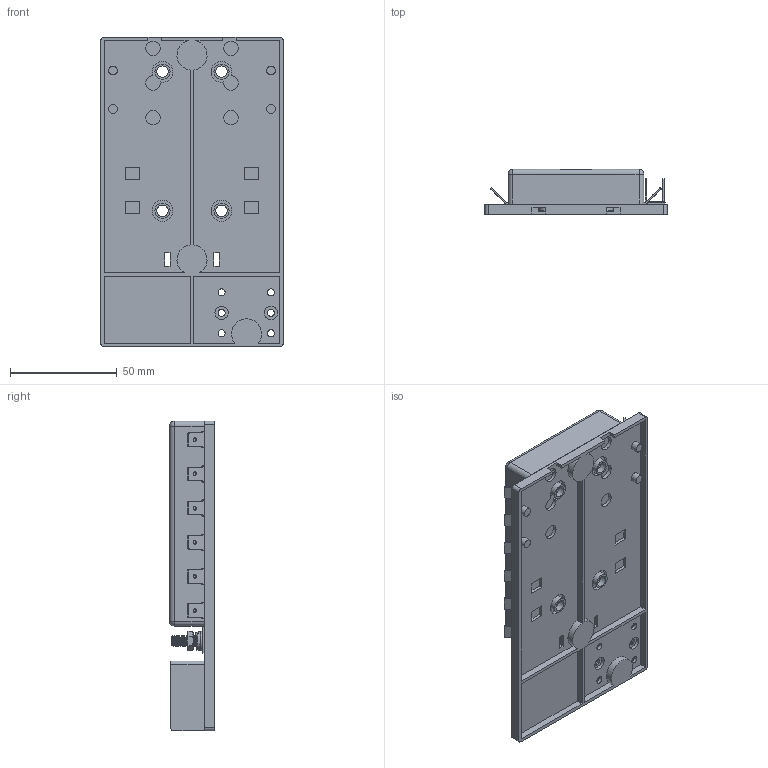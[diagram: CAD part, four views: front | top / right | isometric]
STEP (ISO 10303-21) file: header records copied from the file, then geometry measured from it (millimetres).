
FILE_DESCRIPTION(/* description */ (''),/* implementation_level */ '2;1');
FILE_NAME(/* name */ 'C:\Users\Hani\Desktop\work\BLC-112-G\BLC-112-G.stp',/* time_stamp */ '2020-07-30T19:58:00-07:00',/* author */ ('Hani'),/* organization */ (''),/* preprocessor_version */ 'ST-DEVELOPER v17',/* originating_system */ 'Autodesk Inventor 2019',/* authorisation */ '');
FILE_SCHEMA (('AUTOMOTIVE_DESIGN { 1 0 10303 214 3 1 1 }'));
Length unit declared in the file: inch
Products named in the file (12): BLC-106-G; BLC-106-G_1; BLOCK; plate; holder; plate2; STUD; WASHER; LOCK WASHER; HEX NUT; terminal; terminal_MIR
Assembly tree (34 placements, depth 2):
  BLC-106-G
    BLC-106-G_1
    BLOCK
    plate
    holder  x2
    plate2
    STUD  x2
    WASHER  x2
    LOCK WASHER  x2
    HEX NUT  x2
    terminal  x10
    terminal_MIR  x10
Bounding box: 85.24 x 21.01 x 144.78 mm (x, y, z)
Volume: 121181.5 mm3; surface area: 70164.8 mm2
Topology: 34 solids, 34 shells, 1468 faces, 3854 edges, 2508 vertices
Faces by surface type: plane 971, cylinder 349, cone 96, torus 34, bspline 14, sphere 4
Full cylindrical faces by diameter (mm): 1.905 x32, 3.302 x16, 3.769 x32, 3.795 x2, 4.064 x4, 4.775 x2, 4.801 x34, 4.826 x6, 4.953 x2, 5.309 x4, 5.41 x1, 5.588 x4, 6.147 x2, 6.706 x4, 7.087 x4, 8.992 x2, 9.779 x2, 10.16 x4
Entity records: 31561 total; most frequent: CARTESIAN_POINT 9136, ORIENTED_EDGE 4602, DIRECTION 4402, EDGE_CURVE 2301, LINE 1758, VECTOR 1758, VERTEX_POINT 1508, AXIS2_PLACEMENT_3D 1322
